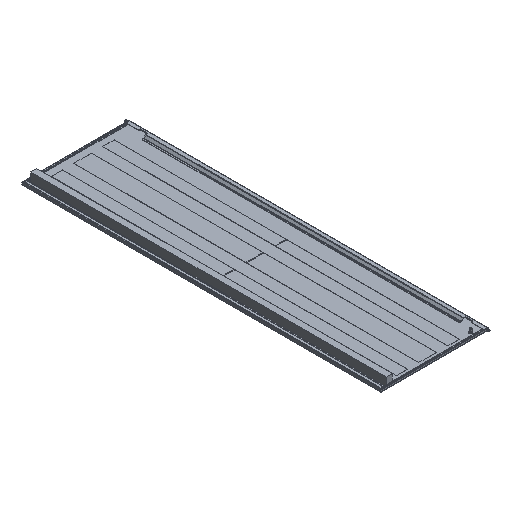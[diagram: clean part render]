
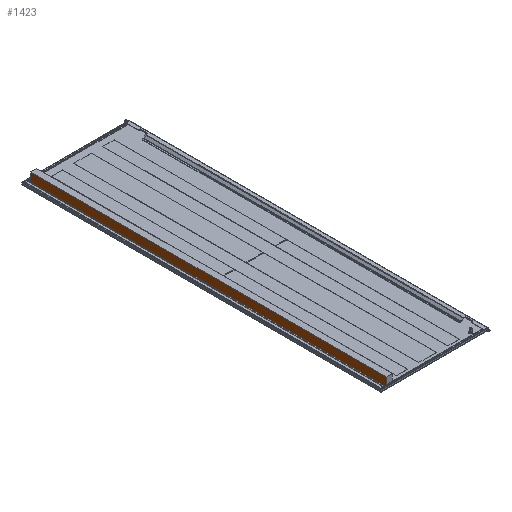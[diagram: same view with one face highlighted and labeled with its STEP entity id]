
A CAD part, isometric view. The second image highlights one B-rep face of the part: STEP entity #1423.
In plain terms, the highlighted planar face has unit normal (-1, 0, 0).
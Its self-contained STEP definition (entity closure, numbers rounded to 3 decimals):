
#151 = VECTOR ( 'NONE', #4712, 1000. ) ;
#277 = EDGE_LOOP ( 'NONE', ( #2657, #2658, #2656, #2659 ) ) ;
#740 = VERTEX_POINT ( 'NONE', #3007 ) ;
#741 = VERTEX_POINT ( 'NONE', #3008 ) ;
#991 = EDGE_CURVE ( 'NONE', #3858, #3856, #4710, .T. ) ;
#1423 = ADVANCED_FACE ( 'NONE', ( #4034 ), #6289, .F. ) ;
#1618 = EDGE_CURVE ( 'NONE', #741, #3858, #6899, .T. ) ;
#1620 = EDGE_CURVE ( 'NONE', #740, #3856, #6905, .T. ) ;
#1621 = EDGE_CURVE ( 'NONE', #741, #740, #6908, .T. ) ;
#2656 = ORIENTED_EDGE ( 'NONE', *, *, #1621, .F. ) ;
#2657 = ORIENTED_EDGE ( 'NONE', *, *, #991, .T. ) ;
#2658 = ORIENTED_EDGE ( 'NONE', *, *, #1620, .F. ) ;
#2659 = ORIENTED_EDGE ( 'NONE', *, *, #1618, .T. ) ;
#3007 = CARTESIAN_POINT ( 'NONE',  ( -224.6, -856.75, 29.5 ) ) ;
#3008 = CARTESIAN_POINT ( 'NONE',  ( -224.6, 856.75, 29.5 ) ) ;
#3856 = VERTEX_POINT ( 'NONE', #7303 ) ;
#3858 = VERTEX_POINT ( 'NONE', #7305 ) ;
#4034 = FACE_OUTER_BOUND ( 'NONE', #277, .T. ) ;
#4038 = AXIS2_PLACEMENT_3D ( 'NONE', #6290, #6291, #6292 ) ;
#4323 = VECTOR ( 'NONE', #6901, 1000. ) ;
#4325 = VECTOR ( 'NONE', #6907, 1000. ) ;
#4326 = VECTOR ( 'NONE', #6910, 1000. ) ;
#4710 = LINE ( 'NONE', #4711, #151 ) ;
#4711 = CARTESIAN_POINT ( 'NONE',  ( -224.6, -856.75, -12. ) ) ;
#4712 = DIRECTION ( 'NONE',  ( 0., -1., 0. ) ) ;
#6289 = PLANE ( 'NONE',  #4038 ) ;
#6290 = CARTESIAN_POINT ( 'NONE',  ( -224.6, -856.75, 29.5 ) ) ;
#6291 = DIRECTION ( 'NONE',  ( 1., 0., 0. ) ) ;
#6292 = DIRECTION ( 'NONE',  ( 0., 0., -1. ) ) ;
#6899 = LINE ( 'NONE', #6900, #4323 ) ;
#6900 = CARTESIAN_POINT ( 'NONE',  ( -224.6, 856.75, 29.5 ) ) ;
#6901 = DIRECTION ( 'NONE',  ( 0., 0., -1. ) ) ;
#6905 = LINE ( 'NONE', #6906, #4325 ) ;
#6906 = CARTESIAN_POINT ( 'NONE',  ( -224.6, -856.75, 29.5 ) ) ;
#6907 = DIRECTION ( 'NONE',  ( 0., 0., -1. ) ) ;
#6908 = LINE ( 'NONE', #6909, #4326 ) ;
#6909 = CARTESIAN_POINT ( 'NONE',  ( -224.6, -856.75, 29.5 ) ) ;
#6910 = DIRECTION ( 'NONE',  ( 0., -1., 0. ) ) ;
#7303 = CARTESIAN_POINT ( 'NONE',  ( -224.6, -856.75, -12. ) ) ;
#7305 = CARTESIAN_POINT ( 'NONE',  ( -224.6, 856.75, -12. ) ) ;
